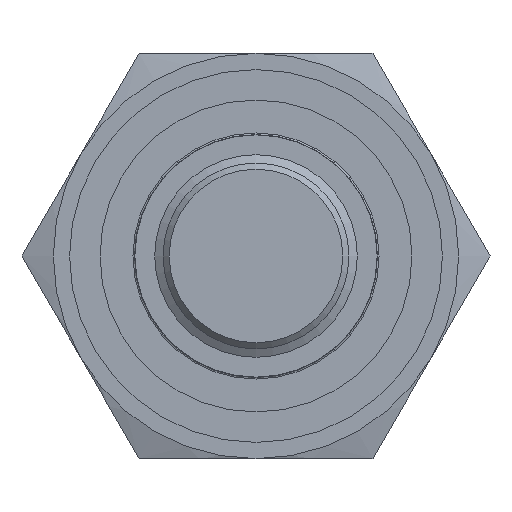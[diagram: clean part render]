
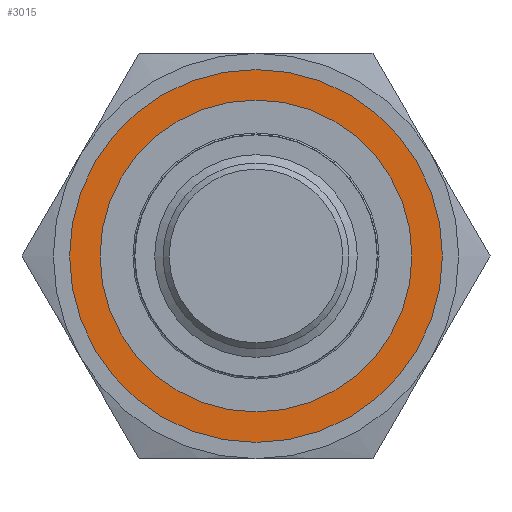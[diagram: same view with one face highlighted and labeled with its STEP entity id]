
A CAD part, left-side view. The second image highlights one B-rep face of the part: STEP entity #3015.
In plain terms, the highlighted planar face has unit normal (-1, 0, 0).
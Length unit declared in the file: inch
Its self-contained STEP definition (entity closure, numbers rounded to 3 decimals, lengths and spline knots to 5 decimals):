
#225=FACE_BOUND('',#979,.T.);
#258=PLANE('',#3381);
#754=FACE_OUTER_BOUND('',#978,.T.);
#978=EDGE_LOOP('',(#2521));
#979=EDGE_LOOP('',(#2522));
#1180=CIRCLE('',#3346,0.481);
#1181=CIRCLE('',#3348,0.575);
#1421=VERTEX_POINT('',#7198);
#1422=VERTEX_POINT('',#7202);
#1789=EDGE_CURVE('',#1421,#1421,#1180,.T.);
#1790=EDGE_CURVE('',#1422,#1422,#1181,.T.);
#2521=ORIENTED_EDGE('',*,*,#1790,.T.);
#2522=ORIENTED_EDGE('',*,*,#1789,.F.);
#3015=ADVANCED_FACE('',(#754,#225),#258,.T.);
#3346=AXIS2_PLACEMENT_3D('',#7200,#4027,#4028);
#3348=AXIS2_PLACEMENT_3D('',#7203,#4031,#4032);
#3381=AXIS2_PLACEMENT_3D('',#7266,#4112,#4113);
#4027=DIRECTION('center_axis',(-1.,0.,0.));
#4028=DIRECTION('ref_axis',(0.,0.,-1.));
#4031=DIRECTION('center_axis',(-1.,0.,0.));
#4032=DIRECTION('ref_axis',(0.,0.,-1.));
#4112=DIRECTION('center_axis',(-1.,0.,0.));
#4113=DIRECTION('ref_axis',(0.,1.,0.));
#7198=CARTESIAN_POINT('',(6.81108,5.30639,0.481));
#7200=CARTESIAN_POINT('Origin',(6.81108,5.30639,0.));
#7202=CARTESIAN_POINT('',(6.81108,5.30639,0.575));
#7203=CARTESIAN_POINT('Origin',(6.81108,5.30639,0.));
#7266=CARTESIAN_POINT('Origin',(6.81108,5.30639,-0.528));
